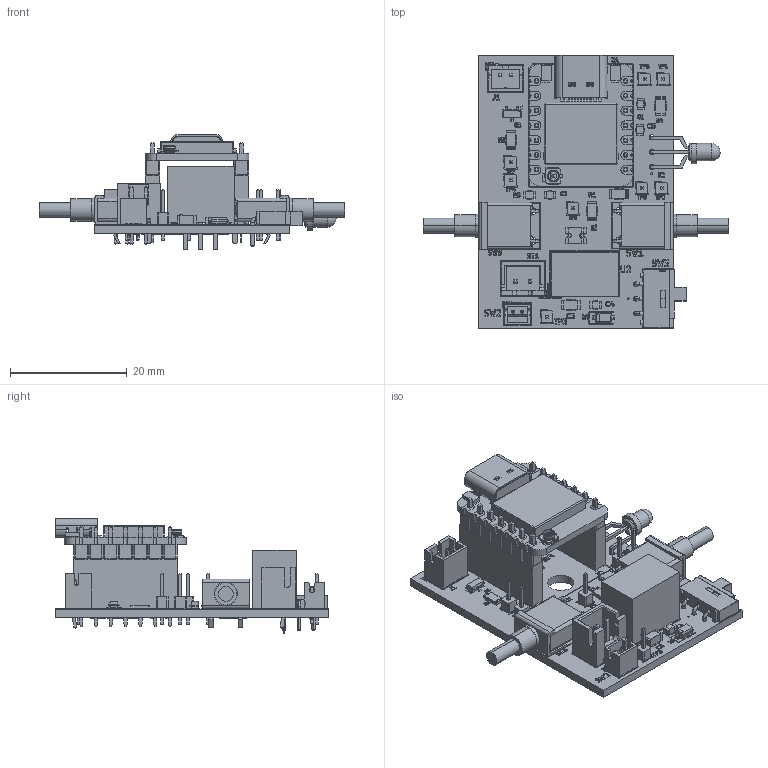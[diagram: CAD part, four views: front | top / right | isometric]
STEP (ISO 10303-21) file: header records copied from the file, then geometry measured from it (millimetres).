
FILE_DESCRIPTION(('KiCad electronic assembly'),'2;1');
FILE_NAME('XIAO_ESP32_Synthese_.step','2026-04-12T14:39:57',('Pcbnew'),( 'Kicad'),'Open CASCADE STEP processor 7.9','KiCad to STEP converter' ,'Unknown');
FILE_SCHEMA(('AUTOMOTIVE_DESIGN { 1 0 10303 214 1 1 1 1 }'));
Length unit declared in the file: millimetre
Products named in the file (25): XIAO_ESP32_Synthese_ 1; PinHeader_1x01_P2.00mm_Vertical; SOT-23; SPST_RS_PRO; A6S_3102_H; D_SOD-123; JST_PH_B2B-PH-K_1x02_P2.00mm_Vertical; R_1206_3216Metric; C_0805_2012Metric; R_0805_2012Metric; Polyswitch_MICROSMD110F-2; C_1206_3216Metric; JST_XH_B2B-XH-A_1x02_P2.50mm_Vertical; SIP_1K2_EOZ_091029001; XIAO-ESP32S3 v2; XIAO_ESP32_Synthese_ 1.26.1; PinHeader_1x07_P2.54mm_Vertical; PinSocket_1x07_P2.54mm_Vertical; LED_Bicolore_angle_droit; B2B-ZR-LF--SN; BxB-ZR_2; pin_Bent; TSR-1_TRACO_POWER_THT; Carabine_Parisis_2026_silkscreen; Carabine_Parisis_2026_PCB
Assembly tree (42 placements, depth 3):
  XIAO_ESP32_Synthese_ 1
    PinHeader_1x01_P2.00mm_Vertical  x8
    SOT-23
    SPST_RS_PRO  x2
    A6S_3102_H
    D_SOD-123  x2
    JST_PH_B2B-PH-K_1x02_P2.00mm_Vertical
    R_1206_3216Metric  x4
    C_0805_2012Metric  x4
    R_0805_2012Metric
    Polyswitch_MICROSMD110F-2
    C_1206_3216Metric
    JST_XH_B2B-XH-A_1x02_P2.50mm_Vertical
    SIP_1K2_EOZ_091029001
    XIAO-ESP32S3 v2
      XIAO_ESP32_Synthese_ 1.26.1
    PinHeader_1x07_P2.54mm_Vertical  x2
    PinSocket_1x07_P2.54mm_Vertical  x2
    LED_Bicolore_angle_droit
    B2B-ZR-LF--SN
      BxB-ZR_2
      pin_Bent  x2
    TSR-1_TRACO_POWER_THT
    Carabine_Parisis_2026_silkscreen
    Carabine_Parisis_2026_PCB
Bounding box: 52.5 x 47 x 19.76 mm (x, y, z)
Volume: 6311.5 mm3; surface area: 11240.9 mm2
Topology: 79 solids, 296 shells, 3438 faces, 11788 edges, 9030 vertices
Faces by surface type: plane 2721, cylinder 547, bspline 65, torus 46, sphere 31, cone 16, revolution 12
Full cylindrical faces by diameter (mm): 0.5 x3, 0.6 x2, 0.73 x2, 0.75 x16, 0.8 x11, 0.889 x3, 1 x19, 1.143 x8, 1.524 x8, 1.72 x1, 1.86 x1, 2 x2, 3 x2, 4.5 x1
Entity records: 113526 total; most frequent: CARTESIAN_POINT 20768, DIRECTION 16451, ORIENTED_EDGE 15268, EDGE_CURVE 9353, LINE 7561, VECTOR 7561, VERTEX_POINT 7244, AXIS2_PLACEMENT_3D 4442
